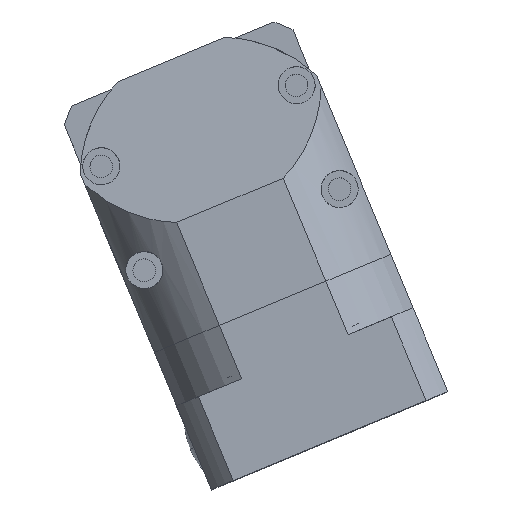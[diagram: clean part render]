
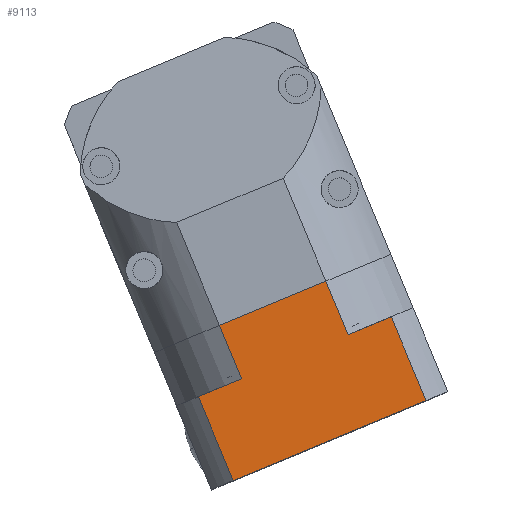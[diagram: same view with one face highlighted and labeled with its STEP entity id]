
A CAD part, top view. The second image highlights one B-rep face of the part: STEP entity #9113.
In plain terms, the highlighted planar face has unit normal (0, 0, 1).
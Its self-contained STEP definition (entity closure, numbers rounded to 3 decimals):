
#779 = CARTESIAN_POINT ( 'NONE',  ( -22.82, -43.141, 125.869 ) ) ;
#1041 = VECTOR ( 'NONE', #17528, 1000. ) ;
#1212 = CARTESIAN_POINT ( 'NONE',  ( 13.43, -28.109, 125.869 ) ) ;
#1427 = LINE ( 'NONE', #4382, #7431 ) ;
#2016 = VECTOR ( 'NONE', #19225, 1000. ) ;
#2269 = CARTESIAN_POINT ( 'NONE',  ( 13.43, -28.109, 125.869 ) ) ;
#2270 = VERTEX_POINT ( 'NONE', #16523 ) ;
#3096 = VERTEX_POINT ( 'NONE', #16387 ) ;
#4126 = ORIENTED_EDGE ( 'NONE', *, *, #7398, .T. ) ;
#4224 = ORIENTED_EDGE ( 'NONE', *, *, #4750, .F. ) ;
#4247 = EDGE_CURVE ( 'NONE', #18090, #3096, #1427, .T. ) ;
#4382 = CARTESIAN_POINT ( 'NONE',  ( 2.978, -32.443, 125.869 ) ) ;
#4750 = EDGE_CURVE ( 'NONE', #11621, #7685, #16374, .T. ) ;
#4767 = DIRECTION ( 'NONE',  ( 0.383, -0.924, 0. ) ) ;
#4906 = DIRECTION ( 'NONE',  ( -0.383, 0.924, 0. ) ) ;
#4985 = DIRECTION ( 'NONE',  ( -0.383, 0.924, 0. ) ) ;
#5136 = ORIENTED_EDGE ( 'NONE', *, *, #12992, .T. ) ;
#5306 = DIRECTION ( 'NONE',  ( -0.383, 0.924, 0. ) ) ;
#6543 = AXIS2_PLACEMENT_3D ( 'NONE', #17903, #9234, #4767 ) ;
#6890 = CARTESIAN_POINT ( 'NONE',  ( -2.384, -19.51, 125.869 ) ) ;
#7398 = EDGE_CURVE ( 'NONE', #3096, #10812, #13278, .T. ) ;
#7431 = VECTOR ( 'NONE', #17586, 1000. ) ;
#7685 = VERTEX_POINT ( 'NONE', #7963 ) ;
#7958 = LINE ( 'NONE', #13950, #11990 ) ;
#7963 = CARTESIAN_POINT ( 'NONE',  ( -24.844, -67.797, 125.869 ) ) ;
#8483 = LINE ( 'NONE', #15649, #12152 ) ;
#8615 = CARTESIAN_POINT ( 'NONE',  ( 21.857, -48.431, 125.869 ) ) ;
#9018 = VECTOR ( 'NONE', #10283, 1000. ) ;
#9051 = PLANE ( 'NONE',  #6543 ) ;
#9113 = ADVANCED_FACE ( 'NONE', ( #18280 ), #9051, .F. ) ;
#9234 = DIRECTION ( 'NONE',  ( 0., 0., -1. ) ) ;
#9496 = EDGE_CURVE ( 'NONE', #2270, #16568, #10680, .T. ) ;
#9686 = ORIENTED_EDGE ( 'NONE', *, *, #4247, .T. ) ;
#10177 = VERTEX_POINT ( 'NONE', #2269 ) ;
#10283 = DIRECTION ( 'NONE',  ( -0.924, -0.383, 0. ) ) ;
#10565 = VECTOR ( 'NONE', #4906, 1000. ) ;
#10680 = LINE ( 'NONE', #16680, #13766 ) ;
#10812 = VERTEX_POINT ( 'NONE', #10951 ) ;
#10901 = CARTESIAN_POINT ( 'NONE',  ( 21.857, -48.431, 125.869 ) ) ;
#10951 = CARTESIAN_POINT ( 'NONE',  ( -28.183, -30.208, 125.869 ) ) ;
#11154 = ORIENTED_EDGE ( 'NONE', *, *, #16220, .F. ) ;
#11315 = LINE ( 'NONE', #779, #10565 ) ;
#11621 = VERTEX_POINT ( 'NONE', #10901 ) ;
#11990 = VECTOR ( 'NONE', #4985, 1000. ) ;
#12152 = VECTOR ( 'NONE', #5306, 1000. ) ;
#12395 = ORIENTED_EDGE ( 'NONE', *, *, #9496, .T. ) ;
#12992 = EDGE_CURVE ( 'NONE', #11621, #10177, #7958, .T. ) ;
#13278 = LINE ( 'NONE', #6890, #1041 ) ;
#13526 = DIRECTION ( 'NONE',  ( -0.924, -0.383, 0. ) ) ;
#13766 = VECTOR ( 'NONE', #13526, 1000. ) ;
#13950 = CARTESIAN_POINT ( 'NONE',  ( 21.857, -48.431, 125.869 ) ) ;
#14261 = CARTESIAN_POINT ( 'NONE',  ( 2.978, -32.443, 125.869 ) ) ;
#14825 = EDGE_CURVE ( 'NONE', #10177, #18090, #18935, .T. ) ;
#15368 = EDGE_LOOP ( 'NONE', ( #4126, #11154, #12395, #18220, #4224, #5136, #15743, #9686 ) ) ;
#15649 = CARTESIAN_POINT ( 'NONE',  ( -24.844, -67.797, 125.869 ) ) ;
#15743 = ORIENTED_EDGE ( 'NONE', *, *, #14825, .T. ) ;
#16220 = EDGE_CURVE ( 'NONE', #2270, #10812, #11315, .T. ) ;
#16374 = LINE ( 'NONE', #8615, #9018 ) ;
#16387 = CARTESIAN_POINT ( 'NONE',  ( -2.384, -19.51, 125.869 ) ) ;
#16523 = CARTESIAN_POINT ( 'NONE',  ( -22.82, -43.141, 125.869 ) ) ;
#16568 = VERTEX_POINT ( 'NONE', #19386 ) ;
#16680 = CARTESIAN_POINT ( 'NONE',  ( 13.43, -28.109, 125.869 ) ) ;
#17528 = DIRECTION ( 'NONE',  ( -0.924, -0.383, 0. ) ) ;
#17586 = DIRECTION ( 'NONE',  ( -0.383, 0.924, 0. ) ) ;
#17903 = CARTESIAN_POINT ( 'NONE',  ( 2.978, -32.443, 125.869 ) ) ;
#18090 = VERTEX_POINT ( 'NONE', #14261 ) ;
#18152 = EDGE_CURVE ( 'NONE', #7685, #16568, #8483, .T. ) ;
#18220 = ORIENTED_EDGE ( 'NONE', *, *, #18152, .F. ) ;
#18280 = FACE_OUTER_BOUND ( 'NONE', #15368, .T. ) ;
#18935 = LINE ( 'NONE', #1212, #2016 ) ;
#19225 = DIRECTION ( 'NONE',  ( -0.924, -0.383, 0. ) ) ;
#19386 = CARTESIAN_POINT ( 'NONE',  ( -33.271, -47.475, 125.869 ) ) ;
